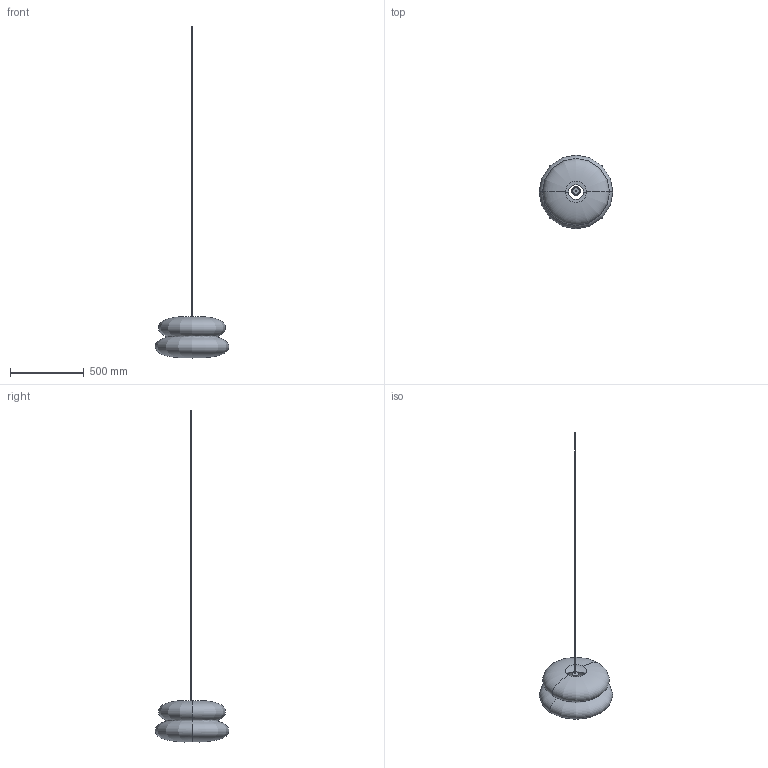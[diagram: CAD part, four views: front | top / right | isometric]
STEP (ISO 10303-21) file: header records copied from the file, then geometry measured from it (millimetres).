
FILE_DESCRIPTION(/* description */ (''),/* implementation_level */ '2;1');
FILE_NAME(/* name */ 'SNOWMAN50 P',/* time_stamp */ '2026-08-05T16:49:24+09:00',/* author */ (''),/* organization */ (''),/* preprocessor_version */ 'ST-DEVELOPER v19.2',/* originating_system */ 'Rhino 8.21',/* authorisation */ '');
FILE_SCHEMA (('CONFIG_CONTROL_DESIGN'));
Length unit declared in the file: millimetre
Products named in the file (1): Document
Bounding box: 499.92 x 499.96 x 2252.7 mm (x, y, z)
Surface area: 743556 mm2 (no closed solid volume)
Topology: 0 solids, 2 shells, 10 faces, 25 edges, 15 vertices
Faces by surface type: bspline 4, cylinder 4, plane 2
Entity records: 2963 total; most frequent: CARTESIAN_POINT 2672, DIRECTION 38, ORIENTED_EDGE 36, AXIS2_PLACEMENT_3D 22, EDGE_CURVE 21, VERTEX_POINT 15, TRIMMED_CURVE 14, CIRCLE 14
